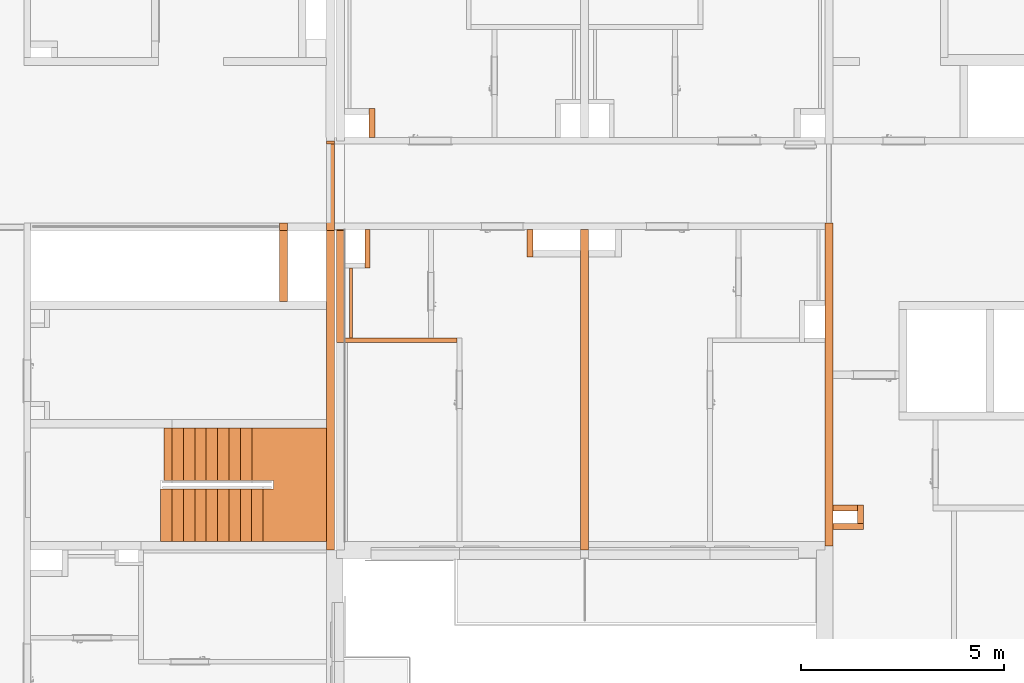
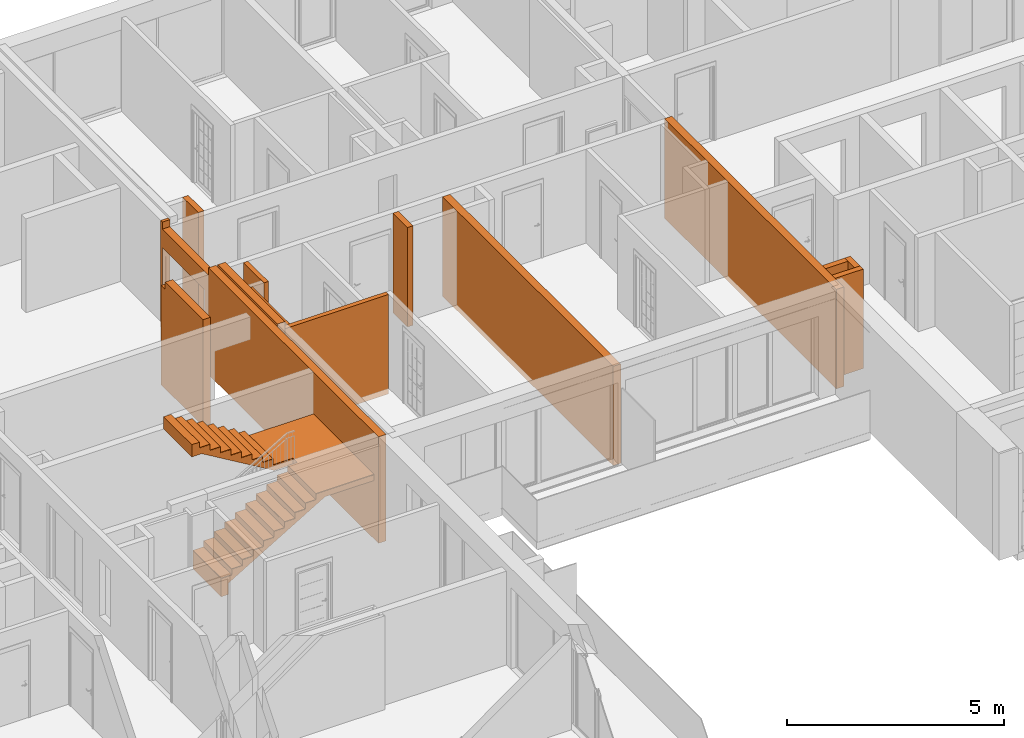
# One storey, part 56 of 66: 14 proxies, 1 opening.
"""IFC2X3 building model written with IfcOpenShell, lengths in millimetres."""

from ifc_helpers import new_model, entity, si_unit, converted_unit, derived_unit, money_unit, direction, frame, origin_with_axes, origin_2d_with_axis, place, context, subcontext, project, spatial, rectangle, extrude, faceted_brep, material, material_list, type_object, element, save


model = new_model("IFC2X3")

# Units and contexts
model_context = context("Model", 3, precision=0.01, world=origin_with_axes(), true_north=direction((0.34421633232, 0.938890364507)))
body_context = subcontext(model_context, "Body", "Model", "MODEL_VIEW")
ifc_project = project(units=[si_unit("LENGTHUNIT", "METRE", prefix="MILLI"), si_unit("AREAUNIT", "SQUARE_METRE"), si_unit("VOLUMEUNIT", "CUBIC_METRE"), converted_unit("PLANEANGLEUNIT", "DEGREE", entity("IfcPlaneAngleMeasure", 0.0174532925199), si_unit("PLANEANGLEUNIT", "RADIAN"), dimensions=[0, 0, 0, 0, 0, 0, 0]), si_unit("SOLIDANGLEUNIT", "STERADIAN"), money_unit("USD"), converted_unit("TIMEUNIT", "Year", entity("IfcTimeMeasure", 31556926.0), si_unit("TIMEUNIT", "SECOND"), dimensions=[0, 0, 1, 0, 0, 0, 0]), si_unit("MASSUNIT", "GRAM", prefix="KILO"), si_unit("THERMODYNAMICTEMPERATUREUNIT", "DEGREE_CELSIUS"), si_unit("LUMINOUSINTENSITYUNIT", "LUMEN"), si_unit("ENERGYUNIT", "JOULE", prefix="MEGA"), derived_unit("THERMALCONDUCTANCEUNIT", [(si_unit("POWERUNIT", "WATT"), 1), (si_unit("LENGTHUNIT", "METRE"), -1), (si_unit("THERMODYNAMICTEMPERATUREUNIT", "KELVIN"), -1)]), derived_unit("SPECIFICHEATCAPACITYUNIT", [(si_unit("ENERGYUNIT", "JOULE"), 1), (si_unit("MASSUNIT", "GRAM", prefix="KILO"), -1), (si_unit("THERMODYNAMICTEMPERATUREUNIT", "KELVIN"), -1)]), derived_unit("MASSDENSITYUNIT", [(si_unit("MASSUNIT", "GRAM", prefix="KILO"), 1), (si_unit("VOLUMEUNIT", "CUBIC_METRE"), -1)])], contexts=[model_context])

# Site, building, storey
site_placement = place(None, origin_with_axes())
site = spatial("IfcSite", under=ifc_project, at=site_placement, Name="USTRONIE MORSKIE", CompositionType="ELEMENT")
building_placement = place(site_placement, origin_with_axes())
building = spatial("IfcBuilding", under=site, at=building_placement, Name="Budynek", CompositionType="ELEMENT")
storey_placement = place(building_placement, frame((0.0, 0.0, 10000.0), z_axis=(0.0, 0.0, 1.0), x_axis=(1.0, 0.0, 0.0)))
storey = spatial("IfcBuildingStorey", under=building, at=storey_placement, Name="PIĘTRO 3", CompositionType="ELEMENT", Elevation=10000.0)

# Proxies
ifc_material_1 = material(Name="Bloczki silikatowe")
building_element_proxy_type_1 = type_object("IfcBuildingElementProxyType", Name="Bloczki silikatowe 120", PredefinedType="NOTDEFINED")
proxy_1_placement = place(storey_placement, frame((367317.920919, 731951.199132, -160.0), z_axis=(0.0, 0.0, 1.0), x_axis=(1.0, 0.0, 0.0)))
element("IfcBuildingElementProxy", 1, at=proxy_1_placement, inside=storey, type_object=building_element_proxy_type_1, material=ifc_material_1, Name="SW-04", context=body_context, shape_type="Brep", body=[
    faceted_brep([(2860.01935038, -59.9999999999, 2800.0), (2860.01935038, 59.9999999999, 2800.0), (99.9999999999, 59.9999999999, 2800.0), (99.9999999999, -59.9999999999, 2800.0), (2860.01935038, -59.9999999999, 0.0), (2860.01935038, 59.9999999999, 0.0), (99.9999999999, 59.9999999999, 0.0), (99.9999999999, -59.9999999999, 0.0)], [[[0, 1, 2, 3]], [[1, 0, 4, 5]], [[1, 5, 6, 2]], [[7, 3, 2, 6]], [[4, 0, 3, 7]], [[5, 4, 7, 6]]]),
])
proxy_2_placement = place(storey_placement, frame((367917.928509, 734751.199287, -160.0), z_axis=(0.0, 0.0, 1.0), x_axis=(-3.11484010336e-05, -0.999999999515, 0.0)))
element("IfcBuildingElementProxy", 2, at=proxy_2_placement, inside=storey, type_object=building_element_proxy_type_1, material=ifc_material_1, Name="SW-04", context=body_context, shape_type="Brep", body=[
    faceted_brep([(1019.99753591, 0.0, 2800.0), (1019.99006029, 120.0, 2800.0), (79.9962250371, 120.0, 2800.0), (80.0000000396, 0.0, 2800.0), (1019.99753591, 0.0, 0.0), (1019.99006029, 120.0, 0.0), (79.9962250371, 120.0, 0.0), (80.0000000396, 0.0, 0.0)], [[[0, 1, 2, 3]], [[1, 0, 4, 5]], [[1, 5, 6, 2]], [[7, 3, 2, 6]], [[4, 0, 3, 7]], [[5, 4, 7, 6]]]),
])
ifc_material_2 = material(Name="Beton konstrukcyjny B25")
ifc_material_3 = material(Name="Płytki podłogowe")
ifc_material_list_1 = material_list([ifc_material_2, ifc_material_2, ifc_material_2, ifc_material_3, ifc_material_3, ifc_material_3, ifc_material_3, ifc_material_3, ifc_material_3, ifc_material_3, ifc_material_3, ifc_material_3, ifc_material_3, ifc_material_3, ifc_material_3, ifc_material_3, ifc_material_3, ifc_material_3, ifc_material_3, ifc_material_3])
building_element_proxy_type_2 = type_object("IfcBuildingElementProxyType", Name="Typ schodów", PredefinedType="NOTDEFINED")
proxy_3_placement = place(storey_placement, frame((362896.181789, 727001.199022, 0.0), z_axis=(0.0, 0.0, 1.0), x_axis=(1.0, 0.0, 0.0)))
element("IfcBuildingElementProxy", 3, at=proxy_3_placement, inside=storey, type_object=building_element_proxy_type_2, material=ifc_material_list_1, Name="SCH2", context=body_context, shape_type="Brep", body=[
    faceted_brep([(2520.0, 1300.0, 1485.0), (2240.0, 1300.0, 1485.0), (2240.0, 0.0, 1485.0), (2520.0, 0.0, 1485.0), (2520.0, 1300.0, 1491.66666667), (2765.81150867, 1300.0, 1491.66666667), (2520.0, 1300.0, 1345.35029246), (2426.66666667, 1300.0, 1289.7947369), (2333.33333333, 1300.0, 1234.23918135), (2240.0, 1300.0, 1178.68362579), (2146.66666667, 1300.0, 1123.12807024), (2053.33333333, 1300.0, 1067.57251468), (1960.0, 1300.0, 1012.01695913), (1866.66666667, 1300.0, 956.46140357), (1773.33333333, 1300.0, 900.905848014), (1680.0, 1300.0, 845.350292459), (1586.66666667, 1300.0, 789.794736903), (1493.33333333, 1300.0, 734.239181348), (1400.0, 1300.0, 678.683625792), (1306.66666667, 1300.0, 623.128070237), (1213.33333333, 1300.0, 567.572514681), (1120.0, 1300.0, 512.016959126), (1026.66666667, 1300.0, 456.46140357), (933.333333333, 1300.0, 400.905848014), (840.0, 1300.0, 345.350292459), (746.666666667, 1300.0, 289.794736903), (653.333333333, 1300.0, 234.239181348), (560.0, 1300.0, 178.683625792), (466.666666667, 1300.0, 123.128070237), (373.333333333, 1300.0, 67.5725146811), (280.0, 1300.0, 12.0169591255), (200.0, 1300.0, -35.6020884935), (200.0, 1300.0, -360.0), (0.0, 1300.0, -360.0), (0.0, 1300.0, -154.649707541), (0.0, 1300.0, 151.666666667), (280.0, 1300.0, 151.666666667), (280.0, 1300.0, 318.333333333), (560.0, 1300.0, 318.333333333), (560.0, 1300.0, 485.0), (840.0, 1300.0, 485.0), (840.0, 1300.0, 651.666666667), (1120.0, 1300.0, 651.666666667), (1120.0, 1300.0, 818.333333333), (1400.0, 1300.0, 818.333333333), (1400.0, 1300.0, 985.0), (1680.0, 1300.0, 985.0), (1680.0, 1300.0, 1151.66666667), (1960.0, 1300.0, 1151.66666667), (1960.0, 1300.0, 1318.33333333), (2240.0, 1300.0, 1318.33333333), (2240.0, 0.0, 1318.33333333), (2520.0, 0.0, 1345.35029246), (2765.81150867, 0.0, 1491.66666667), (2520.0, 0.0, 1491.66666667), (1960.0, 0.0, 1318.33333333), (1960.0, 0.0, 1151.66666667), (1680.0, 0.0, 1151.66666667), (1680.0, 0.0, 985.0), (1400.0, 0.0, 985.0), (1400.0, 0.0, 818.333333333), (1120.0, 0.0, 818.333333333), (1120.0, 0.0, 651.666666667), (840.0, 0.0, 651.666666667), (840.0, 0.0, 485.0), (560.0, 0.0, 485.0), (560.0, 0.0, 318.333333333), (280.0, 0.0, 318.333333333), (280.0, 0.0, 151.666666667), (0.0, 0.0, 151.666666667), (0.0, 0.0, -154.649707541), (0.0, 0.0, -360.0), (200.0, 0.0, -360.0), (200.0, 0.0, -35.6020884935), (280.0, 0.0, 12.0169591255), (373.333333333, 0.0, 67.5725146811), (466.666666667, 0.0, 123.128070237), (560.0, 0.0, 178.683625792), (653.333333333, 0.0, 234.239181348), (746.666666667, 0.0, 289.794736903), (840.0, 0.0, 345.350292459), (933.333333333, 0.0, 400.905848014), (1026.66666667, 0.0, 456.46140357), (1120.0, 0.0, 512.016959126), (1213.33333333, 0.0, 567.572514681), (1306.66666667, 0.0, 623.128070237), (1400.0, 0.0, 678.683625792), (1493.33333333, 0.0, 734.239181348), (1586.66666667, 0.0, 789.794736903), (1680.0, 0.0, 845.350292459), (1773.33333333, 0.0, 900.905848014), (1866.66666667, 0.0, 956.46140357), (1960.0, 0.0, 1012.01695913), (2053.33333333, 0.0, 1067.57251468), (2146.66666667, 0.0, 1123.12807024), (2240.0, 0.0, 1178.68362579), (2333.33333333, 0.0, 1234.23918135), (2426.66666667, 0.0, 1289.7947369)], [[[0, 1, 2, 3]], [[0, 4, 5, 6, 7, 8, 9, 10, 11, 12, 13, 14, 15, 16, 17, 18, 19, 20, 21, 22, 23, 24, 25, 26, 27, 28, 29, 30, 31, 32, 33, 34, 35, 36, 37, 38, 39, 40, 41, 42, 43, 44, 45, 46, 47, 48, 49, 50, 1]], [[50, 51, 2, 1]], [[52, 53, 54, 3, 2, 51, 55, 56, 57, 58, 59, 60, 61, 62, 63, 64, 65, 66, 67, 68, 69, 70, 71, 72, 73, 74, 75, 76, 77, 78, 79, 80, 81, 82, 83, 84, 85, 86, 87, 88, 89, 90, 91, 92, 93, 94, 95, 96, 97]], [[3, 54, 4, 0]], [[54, 53, 5, 4]], [[6, 5, 53, 52, 97, 7]], [[7, 97, 96, 8]], [[8, 96, 95, 9]], [[9, 95, 94, 10]], [[10, 94, 93, 11]], [[11, 93, 92, 12]], [[12, 92, 91, 13]], [[13, 91, 90, 14]], [[14, 90, 89, 15]], [[15, 89, 88, 16]], [[16, 88, 87, 17]], [[17, 87, 86, 18]], [[18, 86, 85, 19]], [[19, 85, 84, 20]], [[20, 84, 83, 21]], [[21, 83, 82, 22]], [[22, 82, 81, 23]], [[23, 81, 80, 24]], [[24, 80, 79, 25]], [[25, 79, 78, 26]], [[26, 78, 77, 27]], [[27, 77, 76, 28]], [[28, 76, 75, 29]], [[29, 75, 74, 30]], [[30, 74, 73, 31]], [[72, 32, 31, 73]], [[72, 71, 33, 32]], [[33, 71, 70, 34]], [[69, 35, 34, 70]], [[68, 36, 35, 69]], [[36, 68, 67, 37]], [[66, 38, 37, 67]], [[38, 66, 65, 39]], [[64, 40, 39, 65]], [[40, 64, 63, 41]], [[62, 42, 41, 63]], [[42, 62, 61, 43]], [[60, 44, 43, 61]], [[44, 60, 59, 45]], [[58, 46, 45, 59]], [[46, 58, 57, 47]], [[56, 48, 47, 57]], [[48, 56, 55, 49]], [[51, 50, 49, 55]]]),
    faceted_brep([(2275.92762177, 1500.0, 1491.66666667), (2771.73913043, 1500.0, 1491.66666667), (2771.73913043, 1500.0, 1651.66666667), (2275.92762177, 1500.0, 1651.66666667), (2275.92762177, 2800.0, 1491.66666667), (4071.73913043, 2800.0, 1491.66666667), (4071.73913043, 0.0, 1491.66666667), (2520.0, 0.0, 1491.66666667), (2520.0, 1300.0, 1491.66666667), (2771.73913043, 1300.0, 1491.66666667), (2771.73913043, 1300.0, 1651.66666667), (2520.0, 1300.0, 1651.66666667), (2520.0, 0.0, 1651.66666667), (4071.73913043, 0.0, 1651.66666667), (4071.73913043, 2800.0, 1651.66666667), (2275.92762177, 2800.0, 1651.66666667)], [[[0, 1, 2, 3]], [[4, 5, 6, 7, 8, 9, 1, 0]], [[10, 2, 1, 9]], [[3, 2, 10, 11, 12, 13, 14, 15]], [[15, 4, 0, 3]], [[15, 14, 5, 4]], [[14, 13, 6, 5]], [[13, 12, 7, 6]], [[12, 11, 8, 7]], [[11, 10, 9, 8]]]),
    faceted_brep([(375.072463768, 2800.0, 2623.12807024), (375.072463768, 1500.0, 2623.12807024), (346.727621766, 1500.0, 2640.0), (346.727621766, 2800.0, 2640.0), (468.405797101, 1500.0, 2567.57251468), (468.405797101, 2800.0, 2567.57251468), (561.739130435, 1500.0, 2512.01695913), (655.072463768, 1500.0, 2456.46140357), (748.405797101, 1500.0, 2400.90584801), (841.739130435, 1500.0, 2345.35029246), (935.072463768, 1500.0, 2289.7947369), (1028.4057971, 1500.0, 2234.23918135), (1121.73913043, 1500.0, 2178.68362579), (1215.07246377, 1500.0, 2123.12807024), (1308.4057971, 1500.0, 2067.57251468), (1401.73913043, 1500.0, 2012.01695913), (1495.07246377, 1500.0, 1956.46140357), (1588.4057971, 1500.0, 1900.90584801), (1681.73913043, 1500.0, 1845.35029246), (1775.07246377, 1500.0, 1789.7947369), (1868.4057971, 1500.0, 1734.23918135), (1961.73913043, 1500.0, 1678.68362579), (2055.07246377, 1500.0, 1623.12807024), (2148.4057971, 1500.0, 1567.57251468), (2241.73913043, 1500.0, 1512.01695913), (2275.92762177, 1500.0, 1491.66666667), (2275.92762177, 1500.0, 1651.66666667), (2241.73913043, 1500.0, 1651.66666667), (2241.73913043, 1500.0, 1818.33333333), (1961.73913043, 1500.0, 1818.33333333), (1961.73913043, 1500.0, 1985.0), (1681.73913043, 1500.0, 1985.0), (1681.73913043, 1500.0, 2151.66666667), (1401.73913043, 1500.0, 2151.66666667), (1401.73913043, 1500.0, 2318.33333333), (1121.73913043, 1500.0, 2318.33333333), (1121.73913043, 1500.0, 2485.0), (841.739130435, 1500.0, 2485.0), (841.739130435, 1500.0, 2651.66666667), (561.739130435, 1500.0, 2651.66666667), (561.739130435, 1500.0, 2818.33333333), (281.739130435, 1500.0, 2818.33333333), (281.739130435, 1500.0, 2985.0), (81.7391304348, 1500.0, 2985.0), (81.7391304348, 1500.0, 2640.0), (81.7391304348, 2800.0, 2640.0), (81.7391304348, 2800.0, 2985.0), (281.739130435, 2800.0, 2985.0), (281.739130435, 2800.0, 2818.33333333), (561.739130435, 2800.0, 2818.33333333), (561.739130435, 2800.0, 2651.66666667), (841.739130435, 2800.0, 2651.66666667), (841.739130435, 2800.0, 2485.0), (1121.73913043, 2800.0, 2485.0), (1121.73913043, 2800.0, 2318.33333333), (1401.73913043, 2800.0, 2318.33333333), (1401.73913043, 2800.0, 2151.66666667), (1681.73913043, 2800.0, 2151.66666667), (1681.73913043, 2800.0, 1985.0), (1961.73913043, 2800.0, 1985.0), (1961.73913043, 2800.0, 1818.33333333), (2241.73913043, 2800.0, 1818.33333333), (2241.73913043, 2800.0, 1651.66666667), (2275.92762177, 2800.0, 1651.66666667), (2275.92762177, 2800.0, 1491.66666667), (2241.73913043, 2800.0, 1512.01695913), (2148.4057971, 2800.0, 1567.57251468), (2055.07246377, 2800.0, 1623.12807024), (1961.73913043, 2800.0, 1678.68362579), (1868.4057971, 2800.0, 1734.23918135), (1775.07246377, 2800.0, 1789.7947369), (1681.73913043, 2800.0, 1845.35029246), (1588.4057971, 2800.0, 1900.90584801), (1495.07246377, 2800.0, 1956.46140357), (1401.73913043, 2800.0, 2012.01695913), (1308.4057971, 2800.0, 2067.57251468), (1215.07246377, 2800.0, 2123.12807024), (1121.73913043, 2800.0, 2178.68362579), (1028.4057971, 2800.0, 2234.23918135), (935.072463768, 2800.0, 2289.7947369), (841.739130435, 2800.0, 2345.35029246), (748.405797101, 2800.0, 2400.90584801), (655.072463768, 2800.0, 2456.46140357), (561.739130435, 2800.0, 2512.01695913)], [[[0, 1, 2, 3]], [[4, 1, 0, 5]], [[1, 4, 6, 7, 8, 9, 10, 11, 12, 13, 14, 15, 16, 17, 18, 19, 20, 21, 22, 23, 24, 25, 26, 27, 28, 29, 30, 31, 32, 33, 34, 35, 36, 37, 38, 39, 40, 41, 42, 43, 44, 2]], [[44, 45, 3, 2]], [[45, 46, 47, 48, 49, 50, 51, 52, 53, 54, 55, 56, 57, 58, 59, 60, 61, 62, 63, 64, 65, 66, 67, 68, 69, 70, 71, 72, 73, 74, 75, 76, 77, 78, 79, 80, 81, 82, 83, 5, 0, 3]], [[6, 4, 5, 83]], [[7, 6, 83, 82]], [[8, 7, 82, 81]], [[9, 8, 81, 80]], [[10, 9, 80, 79]], [[11, 10, 79, 78]], [[12, 11, 78, 77]], [[13, 12, 77, 76]], [[14, 13, 76, 75]], [[15, 14, 75, 74]], [[16, 15, 74, 73]], [[17, 16, 73, 72]], [[18, 17, 72, 71]], [[19, 18, 71, 70]], [[20, 19, 70, 69]], [[21, 20, 69, 68]], [[22, 21, 68, 67]], [[23, 22, 67, 66]], [[66, 65, 24, 23]], [[25, 24, 65, 64]], [[63, 26, 25, 64]], [[63, 62, 27, 26]], [[28, 27, 62, 61]], [[29, 28, 61, 60]], [[60, 59, 30, 29]], [[31, 30, 59, 58]], [[58, 57, 32, 31]], [[33, 32, 57, 56]], [[56, 55, 34, 33]], [[35, 34, 55, 54]], [[54, 53, 36, 35]], [[37, 36, 53, 52]], [[52, 51, 38, 37]], [[39, 38, 51, 50]], [[50, 49, 40, 39]], [[40, 49, 48, 41]], [[47, 42, 41, 48]], [[47, 46, 43, 42]], [[45, 44, 43, 46]]]),
    faceted_brep([(0.0, 0.0, 156.666666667), (0.0, 0.0, 166.666666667), (0.0, 1300.0, 166.666666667), (0.0, 1300.0, 156.666666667), (280.0, 0.0, 156.666666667), (280.0, 0.0, 166.666666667), (280.0, 1300.0, 166.666666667), (280.0, 1300.0, 156.666666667)], [[[0, 1, 2, 3]], [[4, 5, 1, 0]], [[1, 5, 6, 2]], [[3, 2, 6, 7]], [[0, 3, 7, 4]], [[7, 6, 5, 4]]]),
    faceted_brep([(280.0, 0.0, 323.333333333), (280.0, 0.0, 333.333333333), (280.0, 1300.0, 333.333333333), (280.0, 1300.0, 323.333333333), (560.0, 0.0, 323.333333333), (560.0, 0.0, 333.333333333), (560.0, 1300.0, 333.333333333), (560.0, 1300.0, 323.333333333)], [[[0, 1, 2, 3]], [[4, 5, 1, 0]], [[1, 5, 6, 2]], [[3, 2, 6, 7]], [[0, 3, 7, 4]], [[7, 6, 5, 4]]]),
    faceted_brep([(560.0, 0.0, 490.0), (560.0, 0.0, 500.0), (560.0, 1300.0, 500.0), (560.0, 1300.0, 490.0), (840.0, 0.0, 490.0), (840.0, 0.0, 500.0), (840.0, 1300.0, 500.0), (840.0, 1300.0, 490.0)], [[[0, 1, 2, 3]], [[4, 5, 1, 0]], [[1, 5, 6, 2]], [[3, 2, 6, 7]], [[0, 3, 7, 4]], [[7, 6, 5, 4]]]),
    faceted_brep([(840.0, 0.0, 656.666666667), (840.0, 0.0, 666.666666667), (840.0, 1300.0, 666.666666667), (840.0, 1300.0, 656.666666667), (1120.0, 0.0, 656.666666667), (1120.0, 0.0, 666.666666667), (1120.0, 1300.0, 666.666666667), (1120.0, 1300.0, 656.666666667)], [[[0, 1, 2, 3]], [[4, 5, 1, 0]], [[1, 5, 6, 2]], [[3, 2, 6, 7]], [[0, 3, 7, 4]], [[7, 6, 5, 4]]]),
    faceted_brep([(1120.0, 0.0, 823.333333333), (1120.0, 0.0, 833.333333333), (1120.0, 1300.0, 833.333333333), (1120.0, 1300.0, 823.333333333), (1400.0, 0.0, 823.333333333), (1400.0, 0.0, 833.333333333), (1400.0, 1300.0, 833.333333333), (1400.0, 1300.0, 823.333333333)], [[[0, 1, 2, 3]], [[4, 5, 1, 0]], [[1, 5, 6, 2]], [[3, 2, 6, 7]], [[0, 3, 7, 4]], [[7, 6, 5, 4]]]),
    faceted_brep([(1400.0, 0.0, 990.0), (1400.0, 0.0, 1000.0), (1400.0, 1300.0, 1000.0), (1400.0, 1300.0, 990.0), (1680.0, 0.0, 990.0), (1680.0, 0.0, 1000.0), (1680.0, 1300.0, 1000.0), (1680.0, 1300.0, 990.0)], [[[0, 1, 2, 3]], [[4, 5, 1, 0]], [[1, 5, 6, 2]], [[3, 2, 6, 7]], [[0, 3, 7, 4]], [[7, 6, 5, 4]]]),
    faceted_brep([(1680.0, 0.0, 1156.66666667), (1680.0, 0.0, 1166.66666667), (1680.0, 1300.0, 1166.66666667), (1680.0, 1300.0, 1156.66666667), (1960.0, 0.0, 1156.66666667), (1960.0, 0.0, 1166.66666667), (1960.0, 1300.0, 1166.66666667), (1960.0, 1300.0, 1156.66666667)], [[[0, 1, 2, 3]], [[4, 5, 1, 0]], [[1, 5, 6, 2]], [[3, 2, 6, 7]], [[0, 3, 7, 4]], [[7, 6, 5, 4]]]),
    faceted_brep([(1960.0, 0.0, 1323.33333333), (1960.0, 0.0, 1333.33333333), (1960.0, 1300.0, 1333.33333333), (1960.0, 1300.0, 1323.33333333), (2240.0, 0.0, 1323.33333333), (2240.0, 0.0, 1333.33333333), (2240.0, 1300.0, 1333.33333333), (2240.0, 1300.0, 1323.33333333)], [[[0, 1, 2, 3]], [[4, 5, 1, 0]], [[1, 5, 6, 2]], [[3, 2, 6, 7]], [[0, 3, 7, 4]], [[7, 6, 5, 4]]]),
    faceted_brep([(2240.0, 0.0, 1490.0), (2240.0, 0.0, 1500.0), (2240.0, 1300.0, 1500.0), (2240.0, 1300.0, 1490.0), (2520.0, 0.0, 1490.0), (2520.0, 0.0, 1500.0), (2520.0, 1300.0, 1500.0), (2520.0, 1300.0, 1490.0)], [[[0, 1, 2, 3]], [[4, 5, 1, 0]], [[1, 5, 6, 2]], [[3, 2, 6, 7]], [[0, 3, 7, 4]], [[7, 6, 5, 4]]]),
    faceted_brep([(2520.0, 0.0, 1656.66666667), (2520.0, 0.0, 1666.66666667), (2520.0, 1300.0, 1666.66666667), (2520.0, 1300.0, 1656.66666667), (2521.73913043, 0.0, 1656.66666667), (2521.73913043, 0.0, 1666.66666667), (4071.73913043, 0.0, 1666.66666667), (4071.73913043, 2800.0, 1666.66666667), (2521.73913043, 2800.0, 1666.66666667), (2241.73913043, 2800.0, 1666.66666667), (2241.73913043, 1500.0, 1666.66666667), (2521.73913043, 1500.0, 1666.66666667), (2771.73913043, 1500.0, 1666.66666667), (2771.73913043, 1300.0, 1666.66666667), (2521.73913043, 1300.0, 1666.66666667), (2521.73913043, 1300.0, 1656.66666667), (2771.73913043, 1300.0, 1656.66666667), (2771.73913043, 1500.0, 1656.66666667), (2521.73913043, 1500.0, 1656.66666667), (2241.73913043, 1500.0, 1656.66666667), (2241.73913043, 2800.0, 1656.66666667), (2521.73913043, 2800.0, 1656.66666667), (4071.73913043, 2800.0, 1656.66666667), (4071.73913043, 0.0, 1656.66666667)], [[[0, 1, 2, 3]], [[4, 5, 1, 0]], [[1, 5, 6, 7, 8, 9, 10, 11, 12, 13, 14, 2]], [[3, 2, 14, 15]], [[0, 3, 15, 16, 17, 18, 19, 20, 21, 22, 23, 4]], [[23, 6, 5, 4]], [[22, 7, 6, 23]], [[21, 8, 7, 22]], [[20, 9, 8, 21]], [[19, 10, 9, 20]], [[18, 11, 10, 19]], [[17, 12, 11, 18]], [[16, 13, 12, 17]], [[15, 14, 13, 16]]]),
    faceted_brep([(2241.73913043, 2800.0, 1823.33333333), (2241.73913043, 2800.0, 1833.33333333), (2241.73913043, 1500.0, 1833.33333333), (2241.73913043, 1500.0, 1823.33333333), (1961.73913043, 2800.0, 1823.33333333), (1961.73913043, 2800.0, 1833.33333333), (1961.73913043, 1500.0, 1833.33333333), (1961.73913043, 1500.0, 1823.33333333)], [[[0, 1, 2, 3]], [[4, 5, 1, 0]], [[1, 5, 6, 2]], [[3, 2, 6, 7]], [[0, 3, 7, 4]], [[7, 6, 5, 4]]]),
    faceted_brep([(1961.73913043, 2800.0, 1990.0), (1961.73913043, 2800.0, 2000.0), (1961.73913043, 1500.0, 2000.0), (1961.73913043, 1500.0, 1990.0), (1681.73913043, 2800.0, 1990.0), (1681.73913043, 2800.0, 2000.0), (1681.73913043, 1500.0, 2000.0), (1681.73913043, 1500.0, 1990.0)], [[[0, 1, 2, 3]], [[4, 5, 1, 0]], [[1, 5, 6, 2]], [[3, 2, 6, 7]], [[0, 3, 7, 4]], [[7, 6, 5, 4]]]),
    faceted_brep([(1681.73913043, 2800.0, 2156.66666667), (1681.73913043, 2800.0, 2166.66666667), (1681.73913043, 1500.0, 2166.66666667), (1681.73913043, 1500.0, 2156.66666667), (1401.73913043, 2800.0, 2156.66666667), (1401.73913043, 2800.0, 2166.66666667), (1401.73913043, 1500.0, 2166.66666667), (1401.73913043, 1500.0, 2156.66666667)], [[[0, 1, 2, 3]], [[4, 5, 1, 0]], [[1, 5, 6, 2]], [[3, 2, 6, 7]], [[0, 3, 7, 4]], [[7, 6, 5, 4]]]),
    faceted_brep([(1401.73913043, 2800.0, 2323.33333333), (1401.73913043, 2800.0, 2333.33333333), (1401.73913043, 1500.0, 2333.33333333), (1401.73913043, 1500.0, 2323.33333333), (1121.73913043, 2800.0, 2323.33333333), (1121.73913043, 2800.0, 2333.33333333), (1121.73913043, 1500.0, 2333.33333333), (1121.73913043, 1500.0, 2323.33333333)], [[[0, 1, 2, 3]], [[4, 5, 1, 0]], [[1, 5, 6, 2]], [[3, 2, 6, 7]], [[0, 3, 7, 4]], [[7, 6, 5, 4]]]),
    faceted_brep([(1121.73913043, 2800.0, 2490.0), (1121.73913043, 2800.0, 2500.0), (1121.73913043, 1500.0, 2500.0), (1121.73913043, 1500.0, 2490.0), (841.739130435, 2800.0, 2490.0), (841.739130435, 2800.0, 2500.0), (841.739130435, 1500.0, 2500.0), (841.739130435, 1500.0, 2490.0)], [[[0, 1, 2, 3]], [[4, 5, 1, 0]], [[1, 5, 6, 2]], [[3, 2, 6, 7]], [[0, 3, 7, 4]], [[7, 6, 5, 4]]]),
    faceted_brep([(841.739130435, 2800.0, 2656.66666667), (841.739130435, 2800.0, 2666.66666667), (841.739130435, 1500.0, 2666.66666667), (841.739130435, 1500.0, 2656.66666667), (561.739130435, 2800.0, 2656.66666667), (561.739130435, 2800.0, 2666.66666667), (561.739130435, 1500.0, 2666.66666667), (561.739130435, 1500.0, 2656.66666667)], [[[0, 1, 2, 3]], [[4, 5, 1, 0]], [[1, 5, 6, 2]], [[3, 2, 6, 7]], [[0, 3, 7, 4]], [[7, 6, 5, 4]]]),
    faceted_brep([(561.739130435, 2800.0, 2823.33333333), (561.739130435, 2800.0, 2833.33333333), (561.739130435, 1500.0, 2833.33333333), (561.739130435, 1500.0, 2823.33333333), (281.739130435, 2800.0, 2823.33333333), (281.739130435, 2800.0, 2833.33333333), (281.739130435, 1500.0, 2833.33333333), (281.739130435, 1500.0, 2823.33333333)], [[[0, 1, 2, 3]], [[4, 5, 1, 0]], [[1, 5, 6, 2]], [[3, 2, 6, 7]], [[0, 3, 7, 4]], [[7, 6, 5, 4]]]),
])
ifc_material_4 = material(Name="Płyta GK")
ifc_material_5 = material(Name="-Pustka powietrzna")
ifc_material_list_2 = material_list([ifc_material_4, ifc_material_4, ifc_material_5])
building_element_proxy_type_3 = type_object("IfcBuildingElementProxyType", Name="330-SD GK 2-warstwy 75", PredefinedType="NOTDEFINED")
proxy_4_placement = place(storey_placement, frame((367562.908566, 733851.191629, -160.0), z_axis=(0.0, 0.0, 1.0), x_axis=(0.0, -1.0, 0.0)))
element("IfcBuildingElementProxy", 4, at=proxy_4_placement, inside=storey, type_object=building_element_proxy_type_3, material=ifc_material_list_2, Name="Ściana-009", context=body_context, shape_type="Brep", body=[
    faceted_brep([(1839.99249676, 50.0, 145.0), (119.99937709, 50.0, 145.0), (119.99937709, 50.0, 2800.0), (1839.99249676, 50.0, 2800.0), (119.999766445, 37.5, 145.0), (1839.99249676, 37.5, 145.0), (119.999766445, 37.5, 2800.0), (1839.99249676, 37.5, 2800.0)], [[[0, 1, 2, 3]], [[4, 1, 0, 5]], [[1, 4, 6, 2]], [[7, 3, 2, 6]], [[5, 0, 3, 7]], [[4, 5, 7, 6]]]),
    faceted_brep([(1839.99249676, 37.5, 145.0), (119.999766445, 37.5, 145.0), (119.999766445, 37.5, 2800.0), (1839.99249676, 37.5, 2800.0), (120.0001558, 25.0, 145.0), (1839.99249676, 25.0, 145.0), (120.0001558, 25.0, 2800.0), (1839.99249676, 25.0, 2800.0)], [[[0, 1, 2, 3]], [[4, 1, 0, 5]], [[1, 4, 6, 2]], [[7, 3, 2, 6]], [[5, 0, 3, 7]], [[4, 5, 7, 6]]]),
    faceted_brep([(1839.99249676, 25.0, 160.0), (120.0001558, 25.0, 160.0), (120.0001558, 25.0, 2800.0), (1839.99249676, 25.0, 2800.0), (120.00171322, -25.0, 160.0), (1839.99249676, -25.0, 160.0), (120.00171322, -25.0, 2800.0), (1839.99249676, -25.0, 2800.0)], [[[0, 1, 2, 3]], [[4, 1, 0, 5]], [[1, 4, 6, 2]], [[7, 3, 2, 6]], [[5, 0, 3, 7]], [[4, 5, 7, 6]]]),
])
building_element_proxy_type_4 = type_object("IfcBuildingElementProxyType", Name="Bloczki silikatowe 150", PredefinedType="NOTDEFINED")
proxy_5_placement = place(storey_placement, frame((368017.924131, 736851.199036, -160.0), z_axis=(0.0, 0.0, 1.0), x_axis=(-3.11484011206e-05, 0.999999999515, 0.0)))
element("IfcBuildingElementProxy", 5, at=proxy_5_placement, inside=storey, type_object=building_element_proxy_type_4, material=ifc_material_1, Name="SW-03", context=body_context, shape_type="Brep", body=[
    faceted_brep([(800.003252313, 0.0, 0.0), (799.998580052, -150.0, 0.0), (79.9953277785, -150.0, 0.0), (80.0000000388, 0.0, 0.0), (800.003252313, 0.0, 2800.0), (799.998580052, -150.0, 2800.0), (79.9953277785, -150.0, 2800.0), (80.0000000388, 0.0, 2800.0)], [[[0, 1, 2, 3]], [[1, 0, 4, 5]], [[1, 5, 6, 2]], [[7, 3, 2, 6]], [[4, 0, 3, 7]], [[5, 4, 7, 6]]]),
])
proxy_6_placement = place(storey_placement, frame((379317.920919, 727451.199036, -160.0), z_axis=(0.0, 0.0, 1.0), x_axis=(1.0, 0.0, 0.0)))
element("IfcBuildingElementProxy", 6, at=proxy_6_placement, inside=storey, type_object=building_element_proxy_type_4, material=ifc_material_1, Name="SW-03", context=body_context, shape_type="Brep", body=[
    faceted_brep([(850.00090117, -150.0, 2800.0), (850.00090117, 0.0, 2800.0), (100.0, 0.0, 2800.0), (100.0, -150.0, 2800.0), (850.00090117, -150.0, 0.0), (850.00090117, 0.0, 0.0), (100.0, 0.0, 0.0), (100.0, -150.0, 0.0)], [[[0, 1, 2, 3]], [[1, 0, 4, 5]], [[1, 5, 6, 2]], [[7, 3, 2, 6]], [[4, 0, 3, 7]], [[5, 4, 7, 6]]]),
])
proxy_7_placement = place(storey_placement, frame((380017.92182, 727826.199036, -160.0), z_axis=(0.0, 0.0, 1.0), x_axis=(-1.0, 0.0, 0.0)))
element("IfcBuildingElementProxy", 7, at=proxy_7_placement, inside=storey, type_object=building_element_proxy_type_4, material=ifc_material_1, Name="SW-03", context=body_context, shape_type="Brep", body=[
    faceted_brep([(600.00090117, 75.0, 0.0), (600.00090117, -75.0, 0.0), (0.0, -75.0, 0.0), (0.0, 75.0, 0.0), (600.00090117, 75.0, 2800.0), (600.00090117, -75.0, 2800.0), (0.0, -75.0, 2800.0), (0.0, 75.0, 2800.0)], [[[0, 1, 2, 3]], [[1, 0, 4, 5]], [[1, 5, 6, 2]], [[7, 3, 2, 6]], [[4, 0, 3, 7]], [[5, 4, 7, 6]]]),
])
proxy_8_placement = place(storey_placement, frame((380017.92182, 727451.199036, -160.0), z_axis=(0.0, 0.0, 1.0), x_axis=(0.0, 1.0, 0.0)))
element("IfcBuildingElementProxy", 8, at=proxy_8_placement, inside=storey, type_object=building_element_proxy_type_4, material=ifc_material_1, Name="SW-03", context=body_context, shape_type="Brep", body=[
    faceted_brep([(450.0, -150.0, 2800.0), (450.0, 0.0, 2800.0), (0.0, 0.0, 2800.0), (0.0, -150.0, 2800.0), (450.0, -150.0, 0.0), (450.0, 0.0, 0.0), (0.0, 0.0, 0.0), (0.0, -150.0, 0.0)], [[[0, 1, 2, 3]], [[1, 0, 4, 5]], [[1, 5, 6, 2]], [[7, 3, 2, 6]], [[4, 0, 3, 7]], [[5, 4, 7, 6]]]),
])
proxy_9_placement = place(storey_placement, frame((372047.920919, 734751.200744, -160.0), z_axis=(0.0, 0.0, 1.0), x_axis=(0.0, -1.0, 0.0)))
element("IfcBuildingElementProxy", 9, at=proxy_9_placement, inside=storey, type_object=building_element_proxy_type_4, material=ifc_material_1, Name="SW-03", context=body_context, shape_type="Brep", body=[
    faceted_brep([(749.998859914, 0.0, 0.0), (749.998859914, -150.0, 0.0), (80.0002231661, -150.0, 0.0), (80.000176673, 0.0, 0.0), (749.998859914, 0.0, 2800.0), (749.998859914, -150.0, 2800.0), (80.0002231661, -150.0, 2800.0), (80.000176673, 0.0, 2800.0)], [[[0, 1, 2, 3]], [[1, 0, 4, 5]], [[1, 5, 6, 2]], [[7, 3, 2, 6]], [[4, 0, 3, 7]], [[5, 4, 7, 6]]]),
])

# Proxy, opening
building_element_proxy_type_5 = type_object("IfcBuildingElementProxyType", Name="Beton konstrukcyjny B25 200", PredefinedType="NOTDEFINED")
proxy_10_placement = place(storey_placement, frame((367067.920337, 726801.199036, -160.0), z_axis=(0.0, 0.0, 1.0), x_axis=(5.79399538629e-08, 1.0, 0.0)))
proxy_10 = element("IfcBuildingElementProxy", 10, at=proxy_10_placement, inside=storey, type_object=building_element_proxy_type_5, material=ifc_material_2, Name="SW-01", context=body_context, shape_type="Brep", body=[
    faceted_brep([(10049.9999942, 100.000582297, 3000.0), (9969.99999421, 99.9998332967, 3000.0), (9970.00000579, -99.9994223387, 3000.0), (10050.0000058, -99.9994177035, 3000.0), (7849.99999421, 100.000454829, 2800.0), (9969.99999421, 99.9998332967, 2800.0), (10049.9999942, 100.000582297, 0.0), (-5.79393599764e-06, 100.0, 0.0), (-5.79393599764e-06, 100.0, 3000.0), (7849.99999421, 100.000454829, 3000.0), (9970.00000579, -99.9994223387, 2800.0), (7850.00000579, -99.9995451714, 2800.0), (7850.00000579, -99.9995451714, 3000.0), (5.79404968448e-06, -100.0, 3000.0), (5.79404968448e-06, -100.0, 0.0), (10050.0000058, -99.9994177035, 0.0)], [[[0, 1, 2, 3]], [[4, 5, 1, 0, 6, 7, 8, 9]], [[5, 10, 2, 1]], [[10, 11, 12, 13, 14, 15, 3, 2]], [[6, 0, 3, 15]], [[4, 11, 10, 5]], [[6, 15, 14, 7]], [[7, 14, 13, 8]], [[13, 12, 9, 8]], [[4, 9, 12, 11]]]),
])
opening_placement = place(proxy_10_placement, frame((9000.00001884, 0.0, 160.0), z_axis=(0.0, 0.0, 1.0), x_axis=(1.0, 0.0, 0.0)))
element("IfcOpeningElement", 11, at=opening_placement, cuts=proxy_10, Name="Dw.6", context=body_context, shape_type="SweptSolid", body=[
    extrude(rectangle(XDim=1940.0, YDim=2120.0, at=origin_2d_with_axis()), frame((5.79393599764e-06, -200.0, 1060.0), z_axis=(-5.79399538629e-08, 1.0, 0.0), x_axis=(1.0, 5.79399538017e-08, 0.0)), (0.0, 0.0, 1.0), 600.0),
])

# Proxies
proxy_11_placement = place(storey_placement, frame((373317.920919, 726901.199036, -160.0), z_axis=(0.0, 0.0, 1.0), x_axis=(0.0, 1.0, 0.0)))
element("IfcBuildingElementProxy", 12, at=proxy_11_placement, inside=storey, type_object=building_element_proxy_type_5, material=ifc_material_2, Name="SW-01", context=body_context, shape_type="Brep", body=[
    faceted_brep([(-100.0, 100.0, 0.0), (7770.00189405, 100.0, 0.0), (7770.00195604, -100.0, 0.0), (-100.0, -100.0, 0.0), (-100.0, 100.0, 2800.0), (7770.00189405, 100.0, 2800.0), (7770.00195604, -100.0, 2800.0), (-100.0, -100.0, 2800.0)], [[[0, 1, 2, 3]], [[4, 5, 1, 0]], [[6, 2, 1, 5]], [[3, 2, 6, 7]], [[7, 4, 0, 3]], [[7, 6, 5, 4]]]),
])
proxy_12_placement = place(storey_placement, frame((367317.920919, 731891.199132, -160.0), z_axis=(0.0, 0.0, 1.0), x_axis=(0.0, 1.0, 0.0)))
element("IfcBuildingElementProxy", 13, at=proxy_12_placement, inside=storey, type_object=building_element_proxy_type_5, material=ifc_material_2, Name="SW-01", context=body_context, shape_type="Brep", body=[
    faceted_brep([(2779.99989152, 100.0, 0.0), (2779.99989152, 100.0, 2800.0), (2779.99989152, -100.00001411, 2800.0), (2779.99989152, -100.0, 0.0), (2759.99990367, 100.0, 3000.0), (2759.99990367, 100.0, 2800.0), (0.0, 100.0, 0.0), (0.0, 100.0, 3000.0), (2759.99990367, -100.000014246, 2800.0), (2759.99990367, -100.000014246, 3000.0), (0.0, -100.0, 3000.0), (0.0, -100.0, 0.0)], [[[0, 1, 2, 3]], [[4, 5, 1, 0, 6, 7]], [[5, 8, 2, 1]], [[2, 8, 9, 10, 11, 3]], [[11, 6, 0, 3]], [[5, 4, 9, 8]], [[6, 11, 10, 7]], [[10, 9, 4, 7]]]),
])
proxy_13_placement = place(storey_placement, frame((379317.920919, 726901.199036, -160.0), z_axis=(0.0, 0.0, 1.0), x_axis=(0.0, 1.0, 0.0)))
element("IfcBuildingElementProxy", 14, at=proxy_13_placement, inside=storey, type_object=building_element_proxy_type_5, material=ifc_material_2, Name="SW-01", context=body_context, shape_type="Brep", body=[
    faceted_brep([(7930.00375377, 100.0, 2800.0), (0.0, 100.0, 2800.0), (0.0, -100.0, 2800.0), (7930.00381576, -100.0, 2800.0), (7930.00375377, 100.0, 0.0), (0.0, 100.0, 0.0), (0.0, -100.0, 0.0), (7930.00381576, -100.0, 0.0)], [[[0, 1, 2, 3]], [[4, 5, 1, 0]], [[1, 5, 6, 2]], [[3, 2, 6, 7]], [[7, 4, 0, 3]], [[7, 6, 5, 4]]]),
])
proxy_14_placement = place(storey_placement, frame((365917.915888, 732801.199036, -160.0), z_axis=(0.0, 0.0, 1.0), x_axis=(5.04278977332e-06, 0.999999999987, 0.0)))
element("IfcBuildingElementProxy", 15, at=proxy_14_placement, inside=storey, type_object=building_element_proxy_type_5, material=ifc_material_2, Name="SW-01", context=body_context, shape_type="Brep", body=[
    faceted_brep([(2029.99949575, 100.0, 2800.0), (1940.00000002, 100.0, 2800.0), (1940.00000002, -100.0, 2800.0), (2030.00050431, -100.0, 2800.0), (1849.99949574, 100.0, 3000.0), (1849.99949574, 100.0, 2800.0), (2029.99949575, 100.0, 0.0), (99.9994957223, 100.0, 0.0), (99.9994957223, 100.0, 3000.0), (1850.0005043, -100.0, 2800.0), (1850.0005043, -100.0, 3000.0), (100.00050428, -100.0, 3000.0), (100.00050428, -100.0, 0.0), (2030.00050431, -100.0, 0.0)], [[[0, 1, 2, 3]], [[4, 5, 1, 0, 6, 7, 8]], [[5, 9, 2, 1]], [[2, 9, 10, 11, 12, 13, 3]], [[13, 6, 0, 3]], [[5, 4, 10, 9]], [[12, 7, 6, 13]], [[7, 12, 11, 8]], [[11, 10, 4, 8]]]),
])

save(model, "model.ifc")
